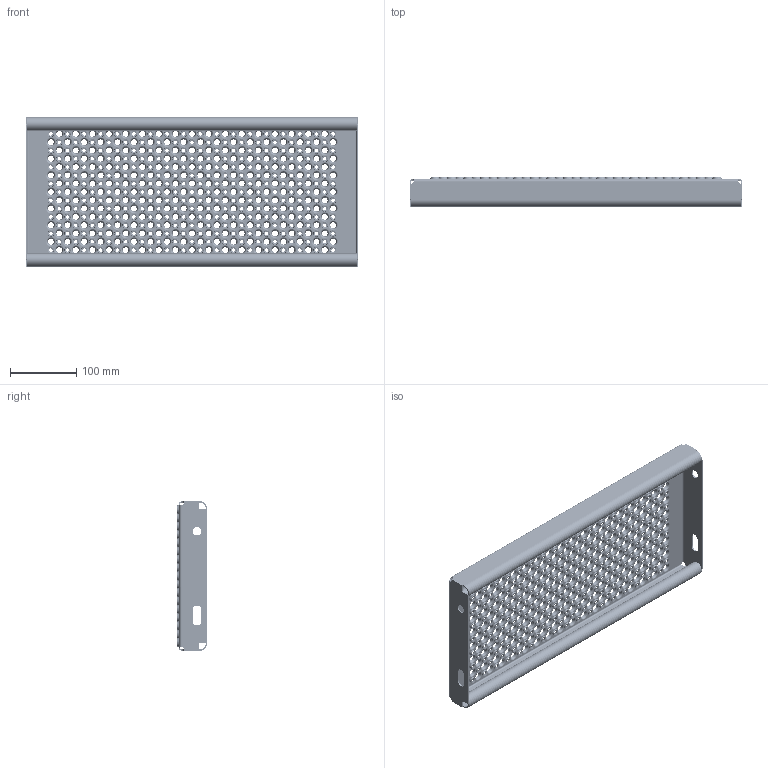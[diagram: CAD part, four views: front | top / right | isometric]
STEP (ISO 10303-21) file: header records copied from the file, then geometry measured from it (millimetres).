
FILE_DESCRIPTION (( 'STEP AP214' ), '1' );
FILE_NAME ('OPTIMO-Tread-Achil-O2-500x225x45x2-st240-F100210100.STEP', '2021-03-16T06:49:50', ( '' ), ( '' ), 'SwSTEP 2.0', 'SolidWorks 2021', '' );
FILE_SCHEMA (( 'AUTOMOTIVE_DESIGN' ));
Length unit declared in the file: millimetre
Products named in the file (1): OPTIMO-Tread-Achil-O2-500x225x45x2-st240-F100210100
Bounding box: 500 x 45 x 225 mm (x, y, z)
Volume: 412727.7 mm3; surface area: 445994.4 mm2
Topology: 1 solids, 1 shells, 6032 faces, 15670 edges, 9640 vertices
Faces by surface type: cone 3570, torus 2380, plane 38, cylinder 36, bspline 8
Entity records: 192124 total; most frequent: DIRECTION 39644, CARTESIAN_POINT 31935, ORIENTED_EDGE 31340, AXIS2_PLACEMENT_3D 17981, EDGE_CURVE 15670, CIRCLE 11956, VERTEX_POINT 9640, EDGE_LOOP 7230
